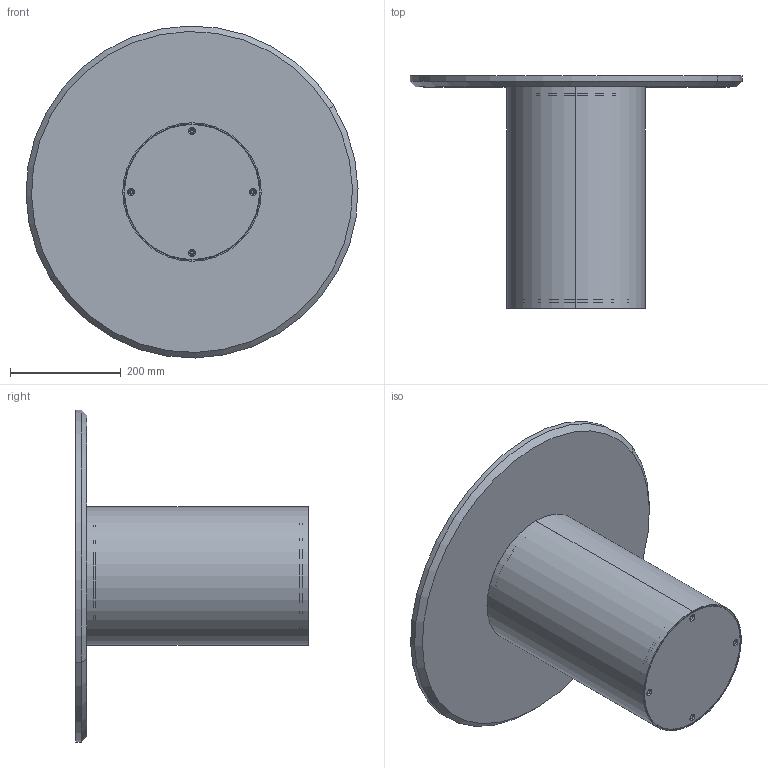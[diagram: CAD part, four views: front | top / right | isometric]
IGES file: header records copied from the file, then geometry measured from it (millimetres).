
Start section: SolidWorks IGES file using analytic representation for surfaces
Global section: file name: Y:\eforma\TECNICO\SOLIDWORKS\E-FORMA\2-TAVOLINI\CILINDRO LOW\02 parts\CL01M.IGS; native system: SolidWorks 2022; preprocessor: SolidWorks 2022; author: eforma.tech; date: 240806.120944; units: millimetre
Bounding box: 599.85 x 420 x 599.85 mm (x, y, z)
Volume: 6929493 mm3; surface area: 1459718.3 mm2
Topology: 12 solids, 12 shells, 233 faces, 538 edges, 322 vertices
Faces by surface type: revolution 159, plane 74
